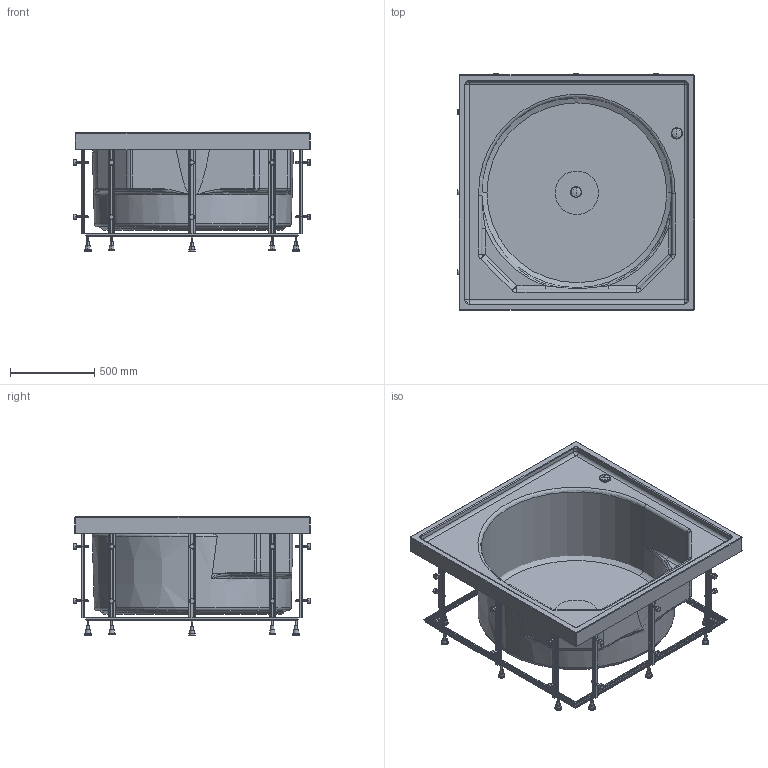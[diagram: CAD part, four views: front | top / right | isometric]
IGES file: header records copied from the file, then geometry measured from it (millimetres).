
Global section: file name: No Iges File Name specified; native system: Autodesk Inventor 2009; preprocessor: AutoDesk Inventor Iges Exporter R2009; author: Andreas; date: 20090630.103832; units: millimetre
Bounding box: 1409.45 x 1409.45 x 705 mm (x, y, z)
Volume: 78285127.1 mm3; surface area: 16834640.2 mm2
Topology: 58 solids, 58 shells, 1145 faces, 2796 edges, 1823 vertices
Faces by surface type: plane 566, cylinder 227, torus 124, revolution 119, cone 78, bspline 27, sphere 4
